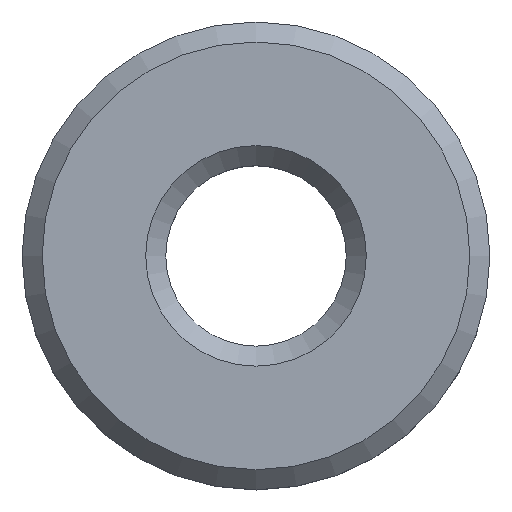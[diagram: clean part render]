
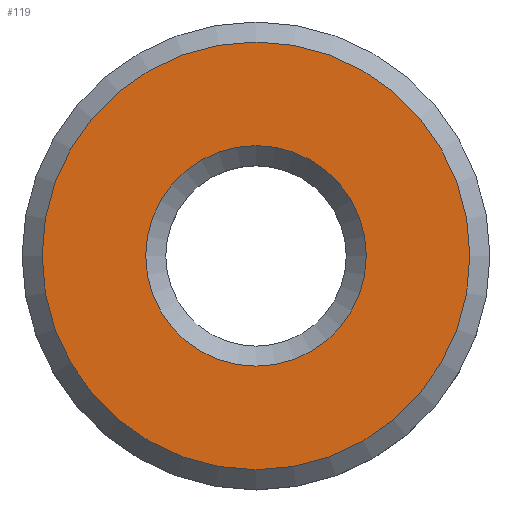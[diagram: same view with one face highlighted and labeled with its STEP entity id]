
A CAD part, top view. The second image highlights one B-rep face of the part: STEP entity #119.
In plain terms, the highlighted planar face has unit normal (0, 0, 1).
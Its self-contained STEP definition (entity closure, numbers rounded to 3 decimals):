
#18=FACE_BOUND('',#37,.T.);
#20=PLANE('',#148);
#27=FACE_OUTER_BOUND('',#36,.T.);
#36=EDGE_LOOP('',(#103));
#37=EDGE_LOOP('',(#104));
#57=CIRCLE('',#147,3.2);
#58=CIRCLE('',#149,1.65);
#65=VERTEX_POINT('',#214);
#66=VERTEX_POINT('',#218);
#77=EDGE_CURVE('',#65,#65,#57,.T.);
#79=EDGE_CURVE('',#66,#66,#58,.T.);
#103=ORIENTED_EDGE('',*,*,#77,.F.);
#104=ORIENTED_EDGE('',*,*,#79,.F.);
#119=ADVANCED_FACE('',(#27,#18),#20,.T.);
#147=AXIS2_PLACEMENT_3D('',#215,#181,#182);
#148=AXIS2_PLACEMENT_3D('',#217,#184,#185);
#149=AXIS2_PLACEMENT_3D('',#219,#186,#187);
#181=DIRECTION('center_axis',(0.,0.,-1.));
#182=DIRECTION('ref_axis',(-1.,0.,0.));
#184=DIRECTION('center_axis',(0.,0.,1.));
#185=DIRECTION('ref_axis',(-1.,0.,0.));
#186=DIRECTION('center_axis',(0.,0.,1.));
#187=DIRECTION('ref_axis',(-1.,0.,0.));
#214=CARTESIAN_POINT('',(23.2,30.,7.5));
#215=CARTESIAN_POINT('Origin',(20.,30.,7.5));
#217=CARTESIAN_POINT('Origin',(20.,30.,7.5));
#218=CARTESIAN_POINT('',(21.65,30.,7.5));
#219=CARTESIAN_POINT('Origin',(20.,30.,7.5));
